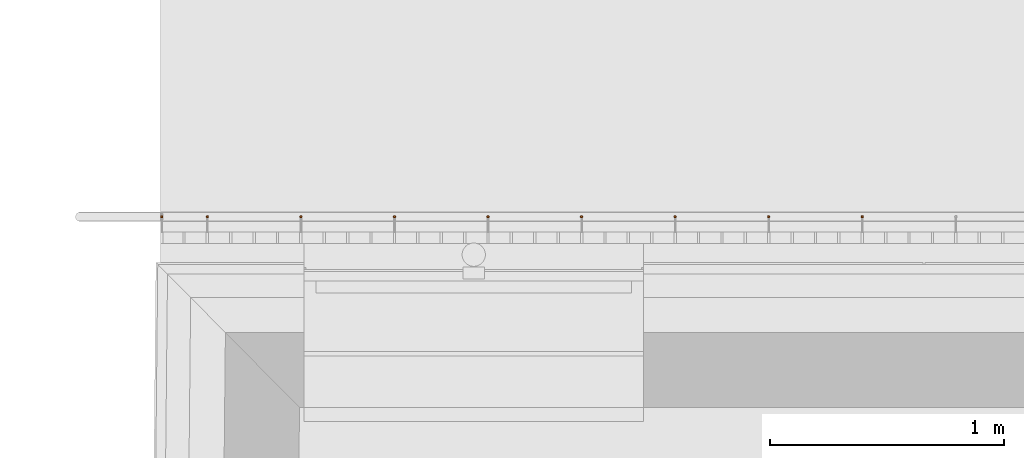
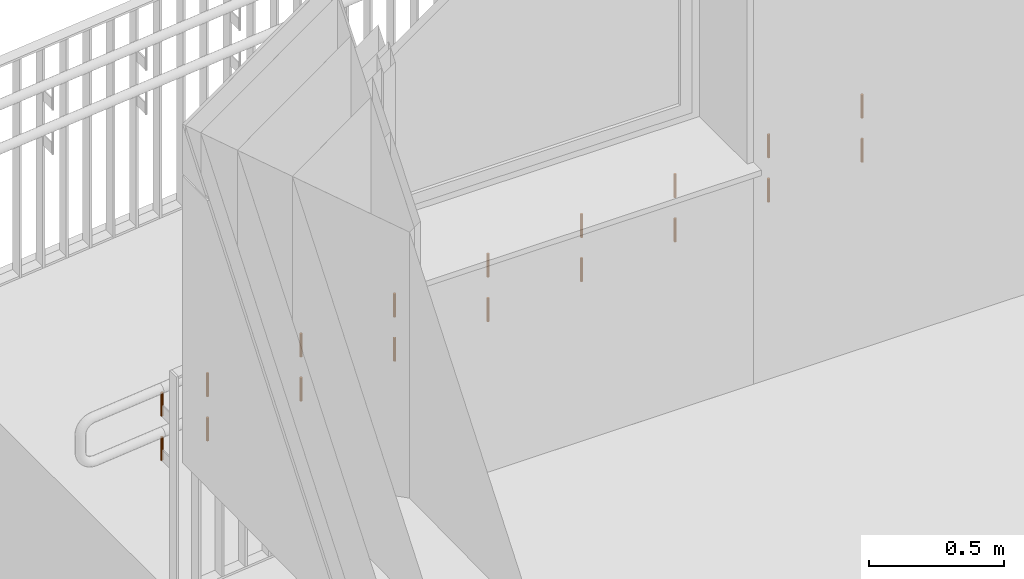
# One storey, part 368 of 418: 18 proxies.
"""IFC2X3 building model written with IfcOpenShell, lengths in millimetres."""

from ifc_helpers import new_model, entity, si_unit, converted_unit, derived_unit, money_unit, direction, frame, origin_with_axes, origin_2d_with_axis, place, context, subcontext, project, spatial, circle, extrude, material, type_object, element, save


model = new_model("IFC2X3")

# Units and contexts
model_context = context("Model", 3, precision=0.01, world=origin_with_axes(), true_north=direction((0.0, 1.0)))
body_context = subcontext(model_context, "Body", "Model", "MODEL_VIEW")
ifc_project = project(units=[si_unit("LENGTHUNIT", "METRE", prefix="MILLI"), si_unit("AREAUNIT", "SQUARE_METRE"), si_unit("VOLUMEUNIT", "CUBIC_METRE"), converted_unit("PLANEANGLEUNIT", "DEGREE", entity("IfcPlaneAngleMeasure", 0.0174532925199), si_unit("PLANEANGLEUNIT", "RADIAN"), dimensions=[0, 0, 0, 0, 0, 0, 0]), si_unit("SOLIDANGLEUNIT", "STERADIAN"), money_unit("EUR"), converted_unit("TIMEUNIT", "Year", entity("IfcTimeMeasure", 31556926.0), si_unit("TIMEUNIT", "SECOND"), dimensions=[0, 0, 1, 0, 0, 0, 0]), si_unit("MASSUNIT", "GRAM", prefix="KILO"), si_unit("THERMODYNAMICTEMPERATUREUNIT", "DEGREE_CELSIUS"), si_unit("LUMINOUSINTENSITYUNIT", "LUMEN"), si_unit("ENERGYUNIT", "JOULE", prefix="MEGA"), derived_unit("THERMALCONDUCTANCEUNIT", [(si_unit("POWERUNIT", "WATT"), 1), (si_unit("LENGTHUNIT", "METRE"), -1), (si_unit("THERMODYNAMICTEMPERATUREUNIT", "KELVIN"), -1)]), derived_unit("SPECIFICHEATCAPACITYUNIT", [(si_unit("ENERGYUNIT", "JOULE"), 1), (si_unit("MASSUNIT", "GRAM", prefix="KILO"), -1), (si_unit("THERMODYNAMICTEMPERATUREUNIT", "KELVIN"), -1)]), derived_unit("MASSDENSITYUNIT", [(si_unit("MASSUNIT", "GRAM", prefix="KILO"), 1), (si_unit("VOLUMEUNIT", "CUBIC_METRE"), -1)])], contexts=[model_context])

# Site, building, storey
site_placement = place(None, origin_with_axes())
site = spatial("IfcSite", under=ifc_project, at=site_placement, Name="Paldiski mnt 245/1, Tallinn, Harjumaa", CompositionType="COMPLEX")
building_placement = place(site_placement, origin_with_axes())
building = spatial("IfcBuilding", under=site, at=building_placement, Name="RKAS Hoone üldnimetus (kasutust iseloomustav) -> IFC Project Manager -> SOLIBRI", CompositionType="ELEMENT")
storey_placement = place(building_placement, origin_with_axes())
storey = spatial("IfcBuildingStorey", under=building, at=storey_placement, Name="Esimene korrus", CompositionType="ELEMENT", Elevation=0.0)

# Proxies
ifc_material = material(Name="ET-07_Teras - Roostevaba")
building_element_proxy_type = type_object("IfcBuildingElementProxyType", Name="ET-07_Teras - Roostevaba D10", PredefinedType="NOTDEFINED")
for number, where, z_axis, x_axis, name in (
    (1, (-58123.3901807, 36584.8286725, 263.938412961), (0.0, 0.0, 1.0), (0.0, 1.0, 0.0), "POST"),
    (2, (-58523.3394775, 36584.8286725, 23.9434337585), (0.0, 0.0, 1.0), (0.0, 1.0, 0.0), "POST"),
    (3, (-58123.3901807, 36584.8286725, 63.9383634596), (0.0, 0.0, 1.0), (0.0, 1.0, 0.0), "POST"),
    (4, (-58523.3394775, 36584.8286725, 223.94348326), (0.0, 0.0, 1.0), (0.0, 1.0, 0.0), "POST"),
    (5, (-57723.3394775, 36584.8286725, 103.943433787), (0.0, 0.0, 1.0), (0.0, 1.0, 0.0), "POST"),
    (6, (-57723.3394775, 36584.8286725, 303.943483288), (0.0, 0.0, 1.0), (0.0, 1.0, 0.0), "POST"),
    (7, (-59918.288767, 36584.8286725, -115.551495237), (0.0, 0.0, 1.0), (0.0, 1.0, 0.0), "POST"),
    (8, (-59918.288767, 36584.8286725, 84.4485542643), (0.0, 0.0, 1.0), (0.0, 1.0, 0.0), "POST"),
    (9, (-57323.3394775, 36584.8286725, 143.9434338), (0.0, 0.0, 1.0), (0.0, 1.0, 0.0), "POST"),
    (10, (-57323.3394775, 36584.8286725, 343.943483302), (0.0, 0.0, 1.0), (0.0, 1.0, 0.0), "POST"),
    (11, (-59723.4408838, 36584.8286725, -96.0667069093), (0.0, 0.0, 1.0), (0.0, 1.0, 0.0), "POST"),
    (12, (-59723.4408838, 36584.8286725, 103.933342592), (0.0, 0.0, 1.0), (0.0, 1.0, 0.0), "POST"),
    (13, (-56923.2887744, 36584.8286725, 183.948504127), (0.0, 0.0, 1.0), (0.0, 1.0, 0.0), "POST"),
    (14, (-56923.2887744, 36584.8286725, 383.948553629), (0.0, 0.0, 1.0), (0.0, 1.0, 0.0), "POST"),
    (15, (-59323.3901807, 36584.8286725, -56.0616365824), (0.0, 0.0, 1.0), (0.0, 1.0, 0.0), "POST"),
    (16, (-59323.3901807, 36584.8286725, 143.938412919), (0.0, 0.0, 1.0), (0.0, 1.0, 0.0), "POST"),
    (17, (-58923.3901807, 36584.8286725, -16.0616365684), (0.0, 0.0, 1.0), (0.0, 1.0, 0.0), "POST"),
    (18, (-58923.3901807, 36584.8286725, 183.938412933), (0.0, 0.0, 1.0), (0.0, 1.0, 0.0), "POST"),
):
    element("IfcBuildingElementProxy", number, at=place(storey_placement, frame(where, z_axis=z_axis, x_axis=x_axis)), inside=storey, type_object=building_element_proxy_type, material=ifc_material, Name=name, context=body_context, shape_type="SweptSolid", body=[
        extrude(circle(Radius=5.0, at=origin_2d_with_axis()), origin_with_axes(), (0.0, 0.0, 1.0), 106.0),
    ])

save(model, "model.ifc")
